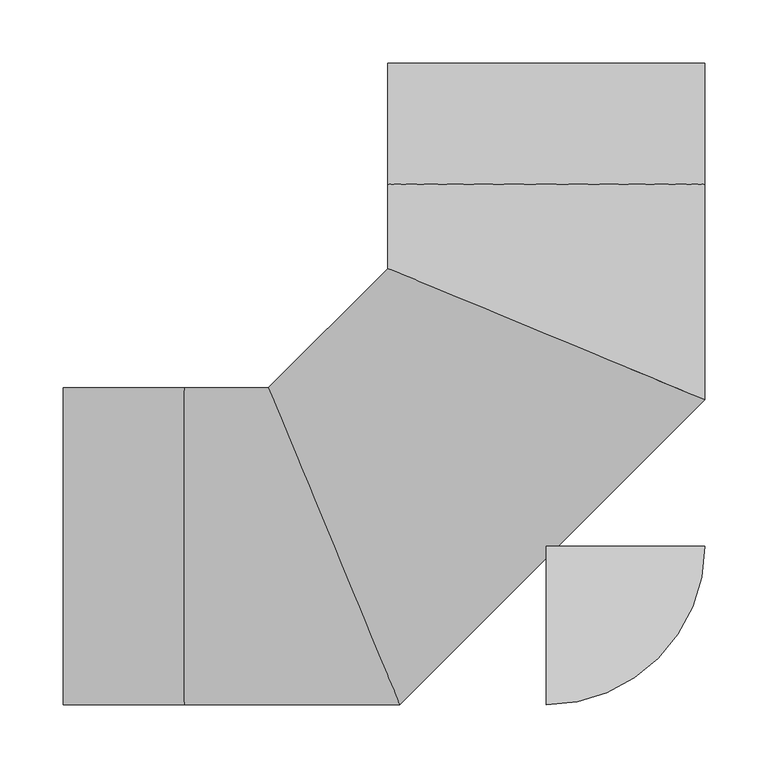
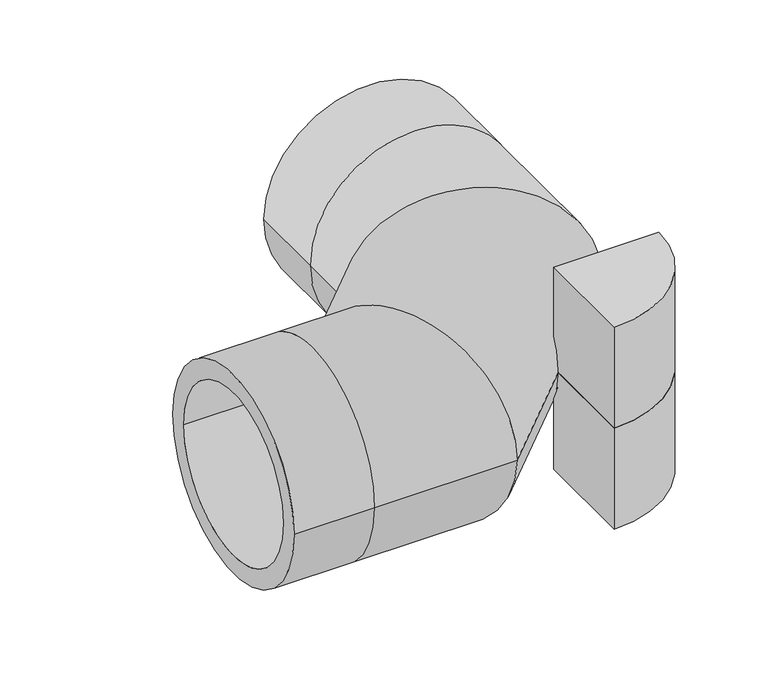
"""IFC4 building model written with IfcOpenShell, lengths in millimetres: pipe fitting geometry, Aquatherm - Elbow Green BW Segmented : SDR 11 NON-FASER."""

from ifc_helpers import new_model, si_unit, point, frame, origin, origin_with_axes, origin_2d, place, context, project, spatial, polyline, circle_curve, ellipse_curve, trimmed, segment, composite_curve, outline, extrude, source, transform, mapped, element, save
from ifc_brep_helpers import plane_surface, cylinder_surface, revolved_surface, advanced_brep


def pipe_fitting_54816d14(model_context):
    return source(origin(), model_context, "Body", "SolidModel", [
        extrude(outline(composite_curve([segment(polyline([(0.0, -124.968), (0.0, 0.0), (124.968, 0.0)]), True, "CONTINUOUS"), segment(trimmed(circle_curve(origin_2d(), 124.968), [point((124.968, 0.0))], [point((0.0, -124.968))], False, "CARTESIAN"), True, "CONTINUOUS")], self_intersect=False)), frame((0.0, 0.0, -127.0), z_axis=(0.0, 0.0, 1.0), x_axis=(1.0, 0.0, 0.0)), (0.0, 0.0, 1.0), 127.0),
        extrude(outline(composite_curve([segment(trimmed(circle_curve(origin_2d(), 124.968), [point((124.968, 0.0))], [point((0.0, -124.968))], False, "CARTESIAN"), True, "CONTINUOUS"), segment(polyline([(0.0, -124.968), (0.0, 0.0), (124.968, 0.0)]), True, "CONTINUOUS")], self_intersect=False)), origin_with_axes(), (0.0, 0.0, 1.0), 127.0),
        advanced_brep(
        [(-381.0, -124.968, 0.0), (-381.0, 124.968, 0.0), (-381.0, -102.2465455, 0.0), (-381.0, 102.2465455, 0.0), (124.968, 381.0, 0.0), (-124.968, 381.0, 0.0), (102.2465455, 381.0, 0.0), (-102.2465455, 381.0, 0.0), (-285.75, -124.968, 0.0), (-285.75, 124.968, 0.0), (-285.75, -102.2465455, 0.0), (-285.75, 102.2465455, 0.0), (-115.6250341, -124.968, 0.0), (-219.151915, 124.968, 0.0), (-125.0365687, -102.2465455, 0.0), (-209.7403804, 102.2465455, 0.0), (124.968, 115.6250341, 0.0), (-124.968, 219.151915, 0.0), (102.2465455, 125.0365687, 0.0), (-102.2465455, 209.7403804, 0.0), (-124.968, 285.75, 0.0), (124.968, 285.75, 0.0), (-102.2465455, 285.75, 0.0), (102.2465455, 285.75, 0.0)],
        [
            (0, 1, circle_curve(frame((-381.0, 0.0, 0.0), z_axis=(-1.0, 0.0, 0.0), x_axis=(0.0, 1.0, 0.0)), 124.968)),
            (1, 0, circle_curve(frame((-381.0, 0.0, 0.0), z_axis=(-1.0, 0.0, 0.0), x_axis=(0.0, 1.0, 0.0)), 124.968)),
            (2, 3, circle_curve(frame((-381.0, 0.0, 0.0), z_axis=(1.0, 0.0, 0.0), x_axis=(0.0, 1.0, 0.0)), 102.2465455)),
            (3, 2, circle_curve(frame((-381.0, 0.0, 0.0), z_axis=(1.0, 0.0, 0.0), x_axis=(0.0, 1.0, 0.0)), 102.2465455)),
            (4, 5, circle_curve(frame((0.0, 381.0, 0.0), z_axis=(0.0, 1.0, 0.0), x_axis=(-1.0, 0.0, 0.0)), 124.968)),
            (5, 4, circle_curve(frame((0.0, 381.0, 0.0), z_axis=(0.0, 1.0, 0.0), x_axis=(-1.0, 0.0, 0.0)), 124.968)),
            (6, 7, circle_curve(frame((0.0, 381.0, 0.0), z_axis=(0.0, -1.0, 0.0), x_axis=(-1.0, 0.0, 0.0)), 102.2465455)),
            (7, 6, circle_curve(frame((0.0, 381.0, 0.0), z_axis=(0.0, -1.0, 0.0), x_axis=(-1.0, 0.0, 0.0)), 102.2465455)),
            (0, 8),
            (8, 9, circle_curve(frame((-285.75, 0.0, 0.0), z_axis=(-1.0, 0.0, 0.0), x_axis=(0.0, 1.0, 0.0)), 124.968)),
            (9, 1),
            (9, 8, circle_curve(frame((-285.75, 0.0, 0.0), z_axis=(-1.0, 0.0, 0.0), x_axis=(0.0, 1.0, 0.0)), 124.968)),
            (2, 10),
            (10, 11, circle_curve(frame((-285.75, 0.0, 0.0), z_axis=(1.0, 0.0, 0.0), x_axis=(0.0, 1.0, 0.0)), 102.2465455)),
            (11, 3),
            (11, 10, circle_curve(frame((-285.75, 0.0, 0.0), z_axis=(1.0, 0.0, 0.0), x_axis=(0.0, 1.0, 0.0)), 102.2465455)),
            (8, 12),
            (12, 13, ellipse_curve(frame((-167.3884746, 0.0, 0.0), z_axis=(-0.923879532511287, -0.3826834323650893, 0.0), x_axis=(-0.3826834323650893, 0.9238795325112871, 0.0)), 135.2643885, 124.968)),
            (13, 9),
            (13, 12, ellipse_curve(frame((-167.3884746, 0.0, 0.0), z_axis=(-0.923879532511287, -0.3826834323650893, 0.0), x_axis=(-0.3826834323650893, 0.9238795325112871, 0.0)), 135.2643885, 124.968)),
            (10, 14),
            (14, 15, ellipse_curve(frame((-167.3884746, 0.0, 0.0), z_axis=(0.923879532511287, 0.3826834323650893, 0.0), x_axis=(0.3826834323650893, -0.9238795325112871, 0.0)), 110.6708633, 102.2465455)),
            (15, 11),
            (15, 14, ellipse_curve(frame((-167.3884746, 0.0, 0.0), z_axis=(0.923879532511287, 0.3826834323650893, 0.0), x_axis=(0.3826834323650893, -0.9238795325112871, 0.0)), 110.6708633, 102.2465455)),
            (12, 16),
            (16, 17, ellipse_curve(frame((0.0, 167.3884746, 0.0), z_axis=(-0.3826834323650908, -0.9238795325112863, 0.0), x_axis=(-0.9238795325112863, 0.3826834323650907, 0.0)), 135.2643885, 124.968)),
            (17, 13),
            (17, 16, ellipse_curve(frame((0.0, 167.3884746, 0.0), z_axis=(-0.3826834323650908, -0.9238795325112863, 0.0), x_axis=(-0.9238795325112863, 0.3826834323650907, 0.0)), 135.2643885, 124.968)),
            (14, 18),
            (18, 19, ellipse_curve(frame((0.0, 167.3884746, 0.0), z_axis=(0.3826834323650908, 0.9238795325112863, 0.0), x_axis=(0.9238795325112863, -0.3826834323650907, 0.0)), 110.6708633, 102.2465455)),
            (19, 15),
            (19, 18, ellipse_curve(frame((0.0, 167.3884746, 0.0), z_axis=(0.3826834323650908, 0.9238795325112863, 0.0), x_axis=(0.9238795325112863, -0.3826834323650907, 0.0)), 110.6708633, 102.2465455)),
            (20, 21, circle_curve(frame((0.0, 285.75, 0.0), z_axis=(0.0, 1.0, 0.0), x_axis=(-1.0, 0.0, 0.0)), 124.968)),
            (21, 4),
            (5, 20),
            (21, 20, circle_curve(frame((0.0, 285.75, 0.0), z_axis=(0.0, 1.0, 0.0), x_axis=(-1.0, 0.0, 0.0)), 124.968)),
            (22, 23, circle_curve(frame((0.0, 285.75, 0.0), z_axis=(0.0, -1.0, 0.0), x_axis=(-1.0, 0.0, 0.0)), 102.2465455)),
            (23, 6),
            (7, 22),
            (23, 22, circle_curve(frame((0.0, 285.75, 0.0), z_axis=(0.0, -1.0, 0.0), x_axis=(-1.0, 0.0, 0.0)), 102.2465455)),
            (16, 21),
            (20, 17),
            (18, 23),
            (22, 19),
        ],
        [
            plane_surface(frame((-381.0, 0.0, 0.0), z_axis=(-1.0, 0.0, 0.0), x_axis=(0.0, 0.0, 1.0))),
            plane_surface(frame((0.0, 381.0, 0.0), z_axis=(0.0, 1.0, 0.0), x_axis=(0.0, 0.0, 1.0))),
            cylinder_surface(frame((-381.0, 0.0, 0.0), z_axis=(-1.0, 0.0, 0.0), x_axis=(0.0, 1.0, 0.0)), 124.968),
            revolved_surface(polyline([(-285.75, 102.2465455, 0.0), (-381.0, 102.2465455, 0.0)]), (-381.0, 0.0, 0.0), (1.0, 0.0, 0.0)),
            cylinder_surface(frame((-285.75, 0.0, 0.0), z_axis=(-1.0, 0.0, 0.0), x_axis=(0.0, 1.0, 0.0)), 124.968),
            revolved_surface(polyline([(-125.0365687, 102.2465455, 0.0), (-285.75, 102.2465455, 0.0)]), (-285.75, 0.0, 0.0), (1.0, 0.0, 0.0)),
            cylinder_surface(frame((-167.3884746, 0.0, 0.0), z_axis=(-0.7071067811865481, -0.707106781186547, 0.0), x_axis=(-0.707106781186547, 0.7071067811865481, 0.0)), 124.968),
            revolved_surface(polyline([(-42.351905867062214, 269.6350200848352, 0.0), (-269.6350200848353, 42.35190586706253, 0.0)]), (-167.3884746, 0.0, 0.0), (0.7071067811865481, 0.707106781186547, 0.0)),
            cylinder_surface(frame((0.0, 285.75, 0.0), z_axis=(0.0, -1.0, 0.0), x_axis=(-1.0, 0.0, 0.0)), 124.968),
            revolved_surface(polyline([(-102.2465455, 381.0, 0.0), (-102.2465455, 285.75, 0.0)]), (0.0, 285.75, 0.0), (0.0, 1.0, 0.0)),
            cylinder_surface(frame((0.0, 167.3884746, 0.0), z_axis=(0.0, -1.0, 0.0), x_axis=(-1.0, 0.0, 0.0)), 124.968),
            revolved_surface(polyline([(-102.2465455, 285.75, 0.0), (-102.2465455, 125.0365687, 0.0)]), (0.0, 167.3884746, 0.0), (0.0, 1.0, 0.0)),
        ],
        [
            (0, [[1, 2], [3, 4]]),
            (1, [[5, 6], [7, 8]]),
            (2, [[-1, 9, 10, 11]]),
            (2, [[-2, -11, 12, -9]]),
            (3, [[-3, 13, 14, 15]]),
            (3, [[-4, -15, 16, -13]]),
            (4, [[-10, 17, 18, 19]]),
            (4, [[-12, -19, 20, -17]]),
            (5, [[-14, 21, 22, 23]]),
            (5, [[-16, -23, 24, -21]]),
            (6, [[-18, 25, 26, 27]]),
            (6, [[-20, -27, 28, -25]]),
            (7, [[-22, 29, 30, 31]]),
            (7, [[-24, -31, 32, -29]]),
            (8, [[33, 34, -6, 35]]),
            (8, [[36, -35, -5, -34]]),
            (9, [[37, 38, -8, 39]]),
            (9, [[40, -39, -7, -38]]),
            (10, [[-26, 41, -33, 42]]),
            (10, [[-28, -42, -36, -41]]),
            (11, [[-30, 43, -37, 44]]),
            (11, [[-32, -44, -40, -43]]),
        ],
    ),
    ])


if __name__ == "__main__":
    model = new_model("IFC4")
    model_context = context("Model", 3, world=origin())
    ifc_project = project(units=[si_unit("LENGTHUNIT", "METRE", prefix="MILLI")], contexts=[model_context])
    site = spatial("IfcSite", under=ifc_project)
    building = spatial("IfcBuilding", under=site)
    placement = place(None, origin())
    pipe_fitting_shape = pipe_fitting_54816d14(model_context)
    element("IfcPipeFitting", 1, ObjectType="Aquatherm - Elbow Green BW Segmented : SDR 11 NON-FASER", at=placement, inside=building, context=model_context, shape_type="MappedRepresentation", body=[
        mapped(pipe_fitting_shape, transform((0.0, 0.0, 0.0), x_axis=(1.0, 0.0, 0.0), y_axis=(0.0, 1.0, 0.0), z_axis=(0.0, 0.0, 1.0))),
    ])
    save(model, "model.ifc")
